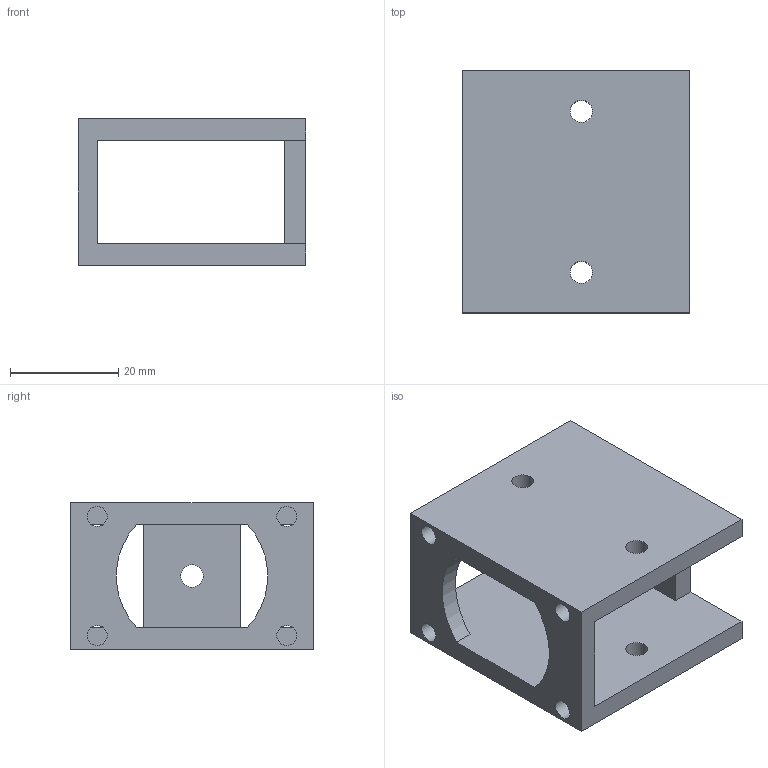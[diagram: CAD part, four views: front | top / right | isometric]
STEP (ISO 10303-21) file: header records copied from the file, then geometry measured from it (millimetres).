
FILE_DESCRIPTION(('Open CASCADE Model'),'2;1');
FILE_NAME('Open CASCADE Shape Model','2026-10-16T00:29:52',('Author'),( 'Open CASCADE'),'Open CASCADE STEP processor 7.9','Open CASCADE 7.9' ,'Unknown');
FILE_SCHEMA(('AUTOMOTIVE_DESIGN { 1 0 10303 214 1 1 1 1 }'));
Length unit declared in the file: millimetre
Products named in the file (1): Open CASCADE STEP translator 7.9 6
Bounding box: 42 x 44.75 x 27 mm (x, y, z)
Volume: 16856.3 mm3; surface area: 10735.3 mm2
Topology: 1 solids, 1 shells, 28 faces, 99 edges, 66 vertices
Faces by surface type: plane 17, cylinder 11
Full cylindrical faces by diameter (mm): 3.7 x4, 4.1 x4, 4.2 x1
Entity records: 2414 total; most frequent: CARTESIAN_POINT 572, DIRECTION 305, ORIENTED_EDGE 198, PCURVE 198, DEFINITIONAL_REPRESENTATION 198, LINE 177, VECTOR 177, EDGE_CURVE 99
